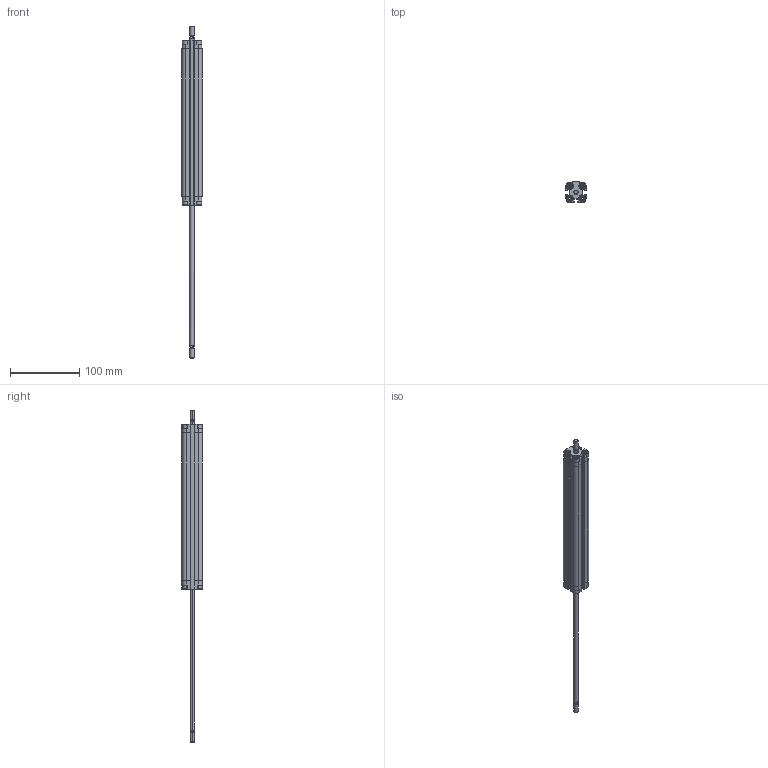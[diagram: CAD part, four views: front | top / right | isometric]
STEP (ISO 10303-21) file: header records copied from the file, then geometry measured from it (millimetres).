
FILE_DESCRIPTION (( 'STEP AP203' ), '1' );
FILE_NAME ('CDVU12-200M-P.STEP', '2020-07-21T14:58:27', ( '' ), ( '' ), 'SwSTEP 2.0', 'SolidWorks 2019', '' );
FILE_SCHEMA (( 'CONFIG_CONTROL_DESIGN' ));
Length unit declared in the file: millimetre
Products named in the file (1): CDVU12-200M-P
Bounding box: 29 x 30 x 479 mm (x, y, z)
Volume: 136761.3 mm3; surface area: 72614.3 mm2
Topology: 2 solids, 2 shells, 566 faces, 1504 edges, 978 vertices
Faces by surface type: plane 338, cylinder 164, cone 48, torus 16
Entity records: 17771 total; most frequent: CARTESIAN_POINT 3621, ORIENTED_EDGE 3000, DIRECTION 2850, EDGE_CURVE 1500, VERTEX_POINT 978, AXIS2_PLACEMENT_3D 975, LINE 900, VECTOR 900
